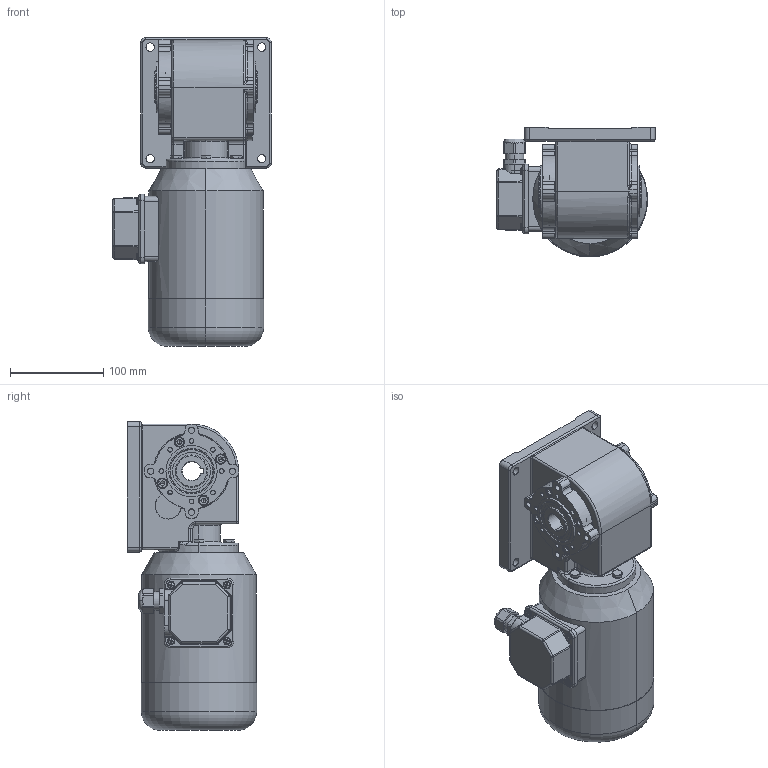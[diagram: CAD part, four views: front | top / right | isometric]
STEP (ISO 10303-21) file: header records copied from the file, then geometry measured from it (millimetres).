
FILE_DESCRIPTION (( 'STEP AP214' ), '1' );
FILE_NAME ('SN13H_180W_Drehstrom-Motor_B.STEP', '2022-03-15T15:36:16', ( '' ), ( '' ), 'SwSTEP 2.0', 'SolidWorks 2019', '' );
FILE_SCHEMA (( 'AUTOMOTIVE_DESIGN' ));
Length unit declared in the file: millimetre
Products named in the file (13): 03-M-269 I 180W_1400Upm; 13-G-004_3D-Export; hex screw gradeab_iso_ISO 4017 - M6 x 20-C; 13FH-F-001_3D-Export; 13H-D-001_3D_Export; K_28x9.0; 13H-W-003_3D-Export; socket head cap screw_iso_ISO 4762 M6 x 16 - 16C; socket set screw flat point_iso_ISO 4026 - M6 x 30-C; NBR_WDR_30x47x7; Kupferscheibe Ø6x10x1 DIN7603 A; SN13H_3D_Export; SN13H_180W_Drehstrom-Motor_B
Assembly tree (27 placements, depth 3):
  SN13H_180W_Drehstrom-Motor_B
    SN13H_3D_Export
      13-G-004_3D-Export
      13H-D-001_3D_Export
      13FH-F-001_3D-Export
      K_28x9.0
      13H-W-003_3D-Export
      NBR_WDR_30x47x7  x2
      Kupferscheibe Ø6x10x1 DIN7603 A  x4
      hex screw gradeab_iso_ISO 4017 - M6 x 20-C  x3
      socket set screw flat point_iso_ISO 4026 - M6 x 30-C
      socket head cap screw_iso_ISO 4762 M6 x 16 - 16C  x10
    03-M-269 I 180W_1400Upm
Bounding box: 170 x 139 x 331.5 mm (x, y, z)
Volume: 3598201.4 mm3; surface area: 328043.2 mm2
Topology: 28 solids, 28 shells, 1332 faces, 3248 edges, 1980 vertices
Faces by surface type: plane 461, cylinder 433, cone 210, bspline 119, torus 104, sphere 5
Entity records: 34314 total; most frequent: CARTESIAN_POINT 9759, ORIENTED_EDGE 4880, DIRECTION 4749, EDGE_CURVE 2440, AXIS2_PLACEMENT_3D 1859, VERTEX_POINT 1553, EDGE_LOOP 1125, VECTOR 1031
